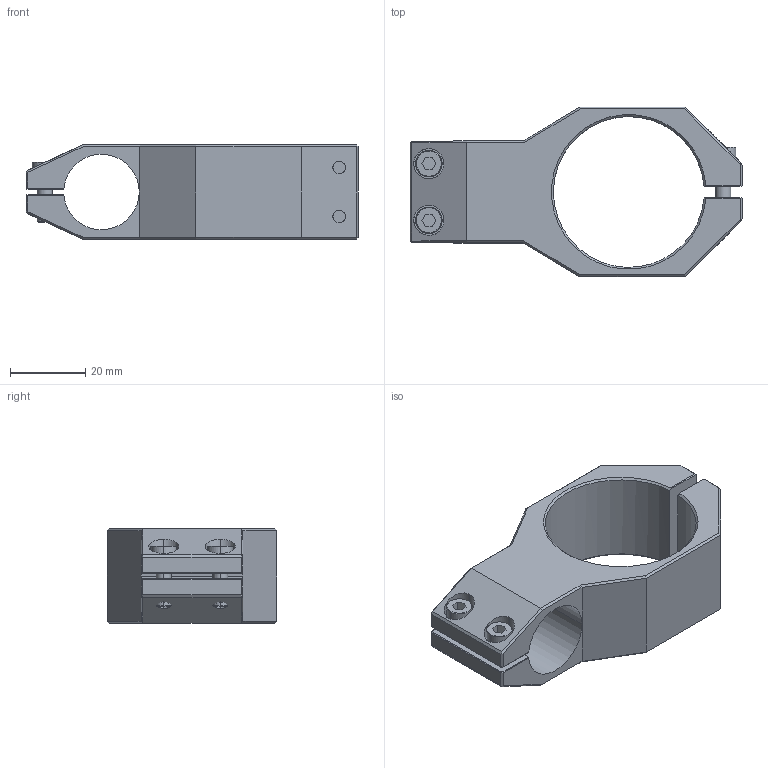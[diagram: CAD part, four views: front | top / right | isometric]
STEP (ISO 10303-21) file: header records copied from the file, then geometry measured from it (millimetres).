
FILE_DESCRIPTION (( 'STEP AP214' ), '1' );
FILE_NAME ('SMBT-4020T.STEP', '2023-06-05T05:12:40', ( 'Windows User' ), ( 'P R C' ), 'SwSTEP 2.0', 'SolidWorks 2019', '' );
FILE_SCHEMA (( 'AUTOMOTIVE_DESIGN' ));
Length unit declared in the file: millimetre
Products named in the file (4): PTC-M4L12; PTS-M4; SMBT-4020T; SMBT-4020
Assembly tree (9 placements, depth 2):
  SMBT-4020T
    SMBT-4020
    PTC-M4L12  x4
    PTS-M4  x4
Bounding box: 88 x 45 x 25 mm (x, y, z)
Volume: 32091.1 mm3; surface area: 16156.4 mm2
Topology: 9 solids, 9 shells, 860 faces, 2433 edges, 1595 vertices
Faces by surface type: plane 762, cylinder 60, cone 35, bspline 3
Entity records: 9959 total; most frequent: CARTESIAN_POINT 1816, ORIENTED_EDGE 1662, DIRECTION 1661, EDGE_CURVE 831, LINE 561, VECTOR 561, AXIS2_PLACEMENT_3D 550, VERTEX_POINT 533
